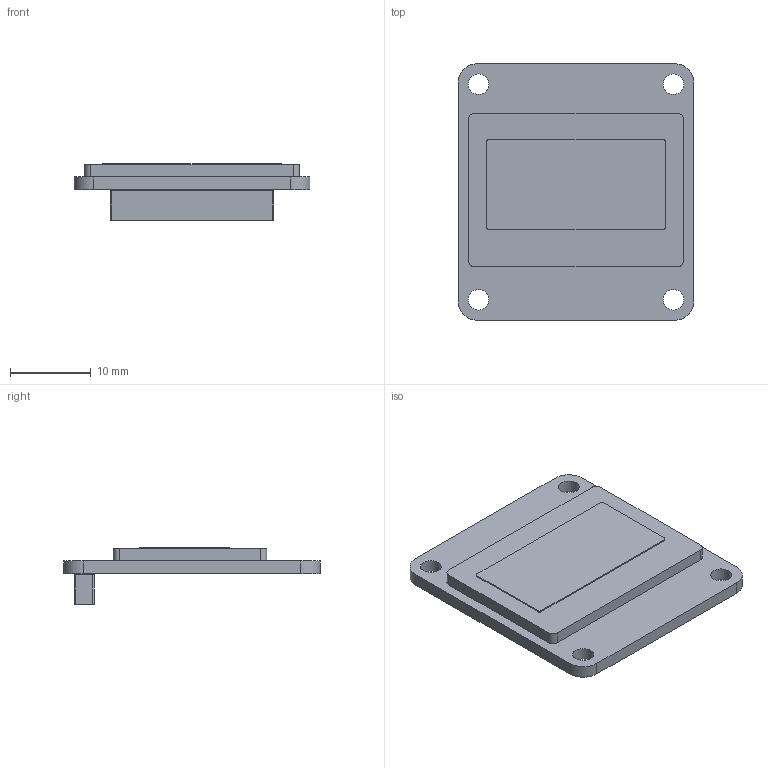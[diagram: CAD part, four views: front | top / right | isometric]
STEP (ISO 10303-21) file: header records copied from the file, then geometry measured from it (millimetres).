
FILE_DESCRIPTION(('Open CASCADE Model'),'2;1');
FILE_NAME('Open CASCADE Shape Model','2026-11-21T14:29:36',('Author'),( 'Open CASCADE'),'Open CASCADE STEP processor 7.9','Open CASCADE 7.9' ,'Unknown');
FILE_SCHEMA(('AUTOMOTIVE_DESIGN { 1 0 10303 214 1 1 1 1 }'));
Length unit declared in the file: millimetre
Products named in the file (5): OLED_Adafruit_326; Breakout PCB; Mounting header; Glass; Active area
Assembly tree (4 placements, depth 2):
  OLED_Adafruit_326
    Breakout PCB
    Mounting header
    Glass
    Active area
Bounding box: 29.21 x 31.75 x 7.05 mm (x, y, z)
Volume: 2421.3 mm3; surface area: 3959.6 mm2
Topology: 4 solids, 4 shells, 44 faces, 108 edges, 72 vertices
Faces by surface type: plane 24, cylinder 20
Full cylindrical faces by diameter (mm): 2.55 x4
Entity records: 2915 total; most frequent: CARTESIAN_POINT 589, DIRECTION 438, LINE 244, VECTOR 244, ORIENTED_EDGE 216, PCURVE 216, DEFINITIONAL_REPRESENTATION 216, EDGE_CURVE 108
